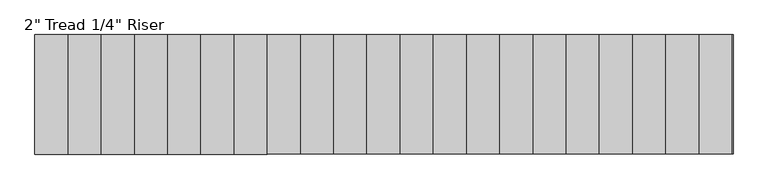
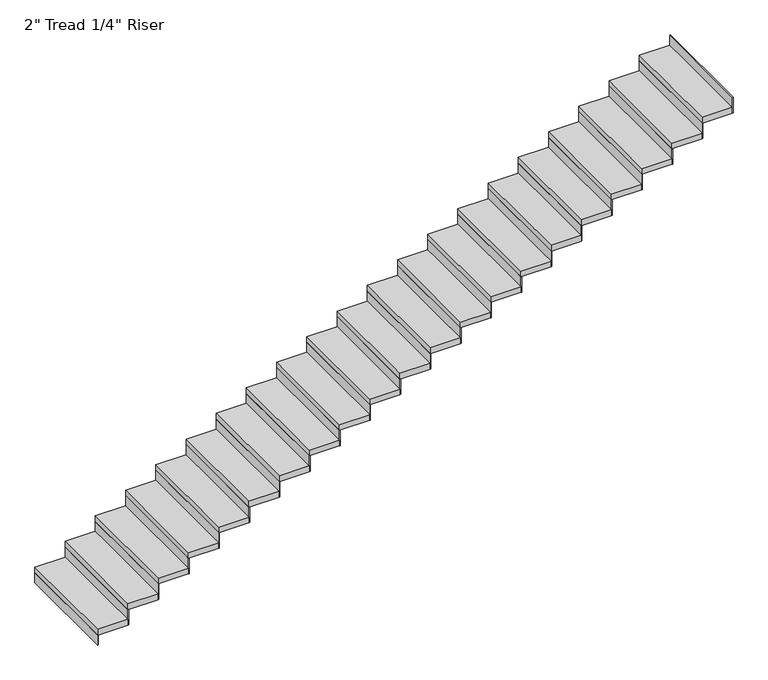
"""IFC4 building model written with IfcOpenShell, lengths in millimetres: stair flight geometry."""

from ifc_helpers import new_model, si_unit, frame, origin, origin_with_axes, place, context, project, spatial, polyline, outline, extrude, source, transform, mapped, element, save


def stair_flight_7c217fa4(model_context):
    return source(origin(), model_context, "Body", "SweptSolid", [
        extrude(outline(polyline([(60465.3810647, 32313.9530185), (60459.0310647, 32313.9530185), (60459.0310647, 33228.3530185), (60465.3810647, 33228.3530185), (60465.3810647, 32313.9530185)])), origin_with_axes(), (0.0, 0.0, 1.0), 87.7454545),
        extrude(outline(polyline([(60713.0310647, 33228.3530185), (60713.0310647, 32313.9530185), (60459.0310647, 32313.9530185), (60459.0310647, 33228.3530185), (60713.0310647, 33228.3530185)])), frame((0.0, 0.0, 87.7454545), z_axis=(0.0, 0.0, 1.0), x_axis=(1.0, 0.0, 0.0)), (0.0, 0.0, 1.0), 50.8),
        extrude(outline(polyline([(60719.3810647, 32313.9530185), (60713.0310647, 32313.9530185), (60713.0310647, 33228.3530185), (60719.3810647, 33228.3530185), (60719.3810647, 32313.9530185)])), frame((0.0, 0.0, 87.7454545), z_axis=(0.0, 0.0, 1.0), x_axis=(1.0, 0.0, 0.0)), (0.0, 0.0, 1.0), 138.5454545),
        extrude(outline(polyline([(60967.0310647, 33228.3530185), (60967.0310647, 32313.9530185), (60713.0310647, 32313.9530185), (60713.0310647, 33228.3530185), (60967.0310647, 33228.3530185)])), frame((0.0, 0.0, 226.2909091), z_axis=(0.0, 0.0, 1.0), x_axis=(1.0, 0.0, 0.0)), (0.0, 0.0, 1.0), 50.8),
        extrude(outline(polyline([(60973.3810647, 32313.9530185), (60967.0310647, 32313.9530185), (60967.0310647, 33228.3530185), (60973.3810647, 33228.3530185), (60973.3810647, 32313.9530185)])), frame((0.0, 0.0, 226.2909091), z_axis=(0.0, 0.0, 1.0), x_axis=(1.0, 0.0, 0.0)), (0.0, 0.0, 1.0), 138.5454545),
        extrude(outline(polyline([(61221.0310647, 33228.3530185), (61221.0310647, 32313.9530185), (60967.0310647, 32313.9530185), (60967.0310647, 33228.3530185), (61221.0310647, 33228.3530185)])), frame((0.0, 0.0, 364.8363636), z_axis=(0.0, 0.0, 1.0), x_axis=(1.0, 0.0, 0.0)), (0.0, 0.0, 1.0), 50.8),
        extrude(outline(polyline([(61227.3810647, 32313.9530185), (61221.0310647, 32313.9530185), (61221.0310647, 33228.3530185), (61227.3810647, 33228.3530185), (61227.3810647, 32313.9530185)])), frame((0.0, 0.0, 364.8363636), z_axis=(0.0, 0.0, 1.0), x_axis=(1.0, 0.0, 0.0)), (0.0, 0.0, 1.0), 138.5454545),
        extrude(outline(polyline([(61475.0310647, 33228.3530185), (61475.0310647, 32313.9530185), (61221.0310647, 32313.9530185), (61221.0310647, 33228.3530185), (61475.0310647, 33228.3530185)])), frame((0.0, 0.0, 503.3818182), z_axis=(0.0, 0.0, 1.0), x_axis=(1.0, 0.0, 0.0)), (0.0, 0.0, 1.0), 50.8),
        extrude(outline(polyline([(61481.3810647, 32313.9530185), (61475.0310647, 32313.9530185), (61475.0310647, 33228.3530185), (61481.3810647, 33228.3530185), (61481.3810647, 32313.9530185)])), frame((0.0, 0.0, 503.3818182), z_axis=(0.0, 0.0, 1.0), x_axis=(1.0, 0.0, 0.0)), (0.0, 0.0, 1.0), 138.5454545),
        extrude(outline(polyline([(61729.0310647, 33228.3530185), (61729.0310647, 32313.9530185), (61475.0310647, 32313.9530185), (61475.0310647, 33228.3530185), (61729.0310647, 33228.3530185)])), frame((0.0, 0.0, 641.9272727), z_axis=(0.0, 0.0, 1.0), x_axis=(1.0, 0.0, 0.0)), (0.0, 0.0, 1.0), 50.8),
        extrude(outline(polyline([(61735.3810647, 32313.9530185), (61729.0310647, 32313.9530185), (61729.0310647, 33228.3530185), (61735.3810647, 33228.3530185), (61735.3810647, 32313.9530185)])), frame((0.0, 0.0, 641.9272727), z_axis=(0.0, 0.0, 1.0), x_axis=(1.0, 0.0, 0.0)), (0.0, 0.0, 1.0), 138.5454545),
        extrude(outline(polyline([(61983.0310647, 33228.3530185), (61983.0310647, 32313.9530185), (61729.0310647, 32313.9530185), (61729.0310647, 33228.3530185), (61983.0310647, 33228.3530185)])), frame((0.0, 0.0, 780.4727273), z_axis=(0.0, 0.0, 1.0), x_axis=(1.0, 0.0, 0.0)), (0.0, 0.0, 1.0), 50.8),
        extrude(outline(polyline([(61989.3810647, 32313.9530185), (61983.0310647, 32313.9530185), (61983.0310647, 33228.3530185), (61989.3810647, 33228.3530185), (61989.3810647, 32313.9530185)])), frame((0.0, 0.0, 780.4727273), z_axis=(0.0, 0.0, 1.0), x_axis=(1.0, 0.0, 0.0)), (0.0, 0.0, 1.0), 138.5454545),
        extrude(outline(polyline([(62237.0310647, 33228.3530185), (62237.0310647, 32313.9530185), (61983.0310647, 32313.9530185), (61983.0310647, 33228.3530185), (62237.0310647, 33228.3530185)])), frame((0.0, 0.0, 919.0181818), z_axis=(0.0, 0.0, 1.0), x_axis=(1.0, 0.0, 0.0)), (0.0, 0.0, 1.0), 50.8),
        extrude(outline(polyline([(62243.3810647, 32313.9530185), (62237.0310647, 32313.9530185), (62237.0310647, 33228.3530185), (62243.3810647, 33228.3530185), (62243.3810647, 32313.9530185)])), frame((0.0, 0.0, 919.0181818), z_axis=(0.0, 0.0, 1.0), x_axis=(1.0, 0.0, 0.0)), (0.0, 0.0, 1.0), 138.5454545),
        extrude(outline(polyline([(62491.0310647, 33228.3530185), (62491.0310647, 32313.9530185), (62237.0310647, 32313.9530185), (62237.0310647, 33228.3530185), (62491.0310647, 33228.3530185)])), frame((0.0, 0.0, 1057.5636364), z_axis=(0.0, 0.0, 1.0), x_axis=(1.0, 0.0, 0.0)), (0.0, 0.0, 1.0), 50.8),
        extrude(outline(polyline([(62497.3810647, 32313.9530185), (62491.0310647, 32313.9530185), (62491.0310647, 33228.3530185), (62497.3810647, 33228.3530185), (62497.3810647, 32313.9530185)])), frame((0.0, 0.0, 1057.5636364), z_axis=(0.0, 0.0, 1.0), x_axis=(1.0, 0.0, 0.0)), (0.0, 0.0, 1.0), 138.5454545),
        extrude(outline(polyline([(62745.0310647, 33228.3530185), (62745.0310647, 32313.9530185), (62491.0310647, 32313.9530185), (62491.0310647, 33228.3530185), (62745.0310647, 33228.3530185)])), frame((0.0, 0.0, 1196.1090909), z_axis=(0.0, 0.0, 1.0), x_axis=(1.0, 0.0, 0.0)), (0.0, 0.0, 1.0), 50.8),
        extrude(outline(polyline([(62751.3810647, 32313.9530185), (62745.0310647, 32313.9530185), (62745.0310647, 33228.3530185), (62751.3810647, 33228.3530185), (62751.3810647, 32313.9530185)])), frame((0.0, 0.0, 1196.1090909), z_axis=(0.0, 0.0, 1.0), x_axis=(1.0, 0.0, 0.0)), (0.0, 0.0, 1.0), 138.5454545),
        extrude(outline(polyline([(62999.0310647, 33228.3530185), (62999.0310647, 32313.9530185), (62745.0310647, 32313.9530185), (62745.0310647, 33228.3530185), (62999.0310647, 33228.3530185)])), frame((0.0, 0.0, 1334.6545455), z_axis=(0.0, 0.0, 1.0), x_axis=(1.0, 0.0, 0.0)), (0.0, 0.0, 1.0), 50.8),
        extrude(outline(polyline([(63005.3810647, 32313.9530185), (62999.0310647, 32313.9530185), (62999.0310647, 33228.3530185), (63005.3810647, 33228.3530185), (63005.3810647, 32313.9530185)])), frame((0.0, 0.0, 1334.6545455), z_axis=(0.0, 0.0, 1.0), x_axis=(1.0, 0.0, 0.0)), (0.0, 0.0, 1.0), 138.5454545),
        extrude(outline(polyline([(63253.0310647, 33228.3530185), (63253.0310647, 32313.9530185), (62999.0310647, 32313.9530185), (62999.0310647, 33228.3530185), (63253.0310647, 33228.3530185)])), frame((0.0, 0.0, 1473.2), z_axis=(0.0, 0.0, 1.0), x_axis=(1.0, 0.0, 0.0)), (0.0, 0.0, 1.0), 50.8),
        extrude(outline(polyline([(63259.3810647, 32313.9530185), (63253.0310647, 32313.9530185), (63253.0310647, 33228.3530185), (63259.3810647, 33228.3530185), (63259.3810647, 32313.9530185)])), frame((0.0, 0.0, 1473.2), z_axis=(0.0, 0.0, 1.0), x_axis=(1.0, 0.0, 0.0)), (0.0, 0.0, 1.0), 138.5454545),
        extrude(outline(polyline([(63507.0310647, 33228.3530185), (63507.0310647, 32313.9530185), (63253.0310647, 32313.9530185), (63253.0310647, 33228.3530185), (63507.0310647, 33228.3530185)])), frame((0.0, 0.0, 1611.7454545), z_axis=(0.0, 0.0, 1.0), x_axis=(1.0, 0.0, 0.0)), (0.0, 0.0, 1.0), 50.8),
        extrude(outline(polyline([(63513.3810647, 32313.9530185), (63507.0310647, 32313.9530185), (63507.0310647, 33228.3530185), (63513.3810647, 33228.3530185), (63513.3810647, 32313.9530185)])), frame((0.0, 0.0, 1611.7454545), z_axis=(0.0, 0.0, 1.0), x_axis=(1.0, 0.0, 0.0)), (0.0, 0.0, 1.0), 138.5454545),
        extrude(outline(polyline([(63761.0310647, 33228.3530185), (63761.0310647, 32313.9530185), (63507.0310647, 32313.9530185), (63507.0310647, 33228.3530185), (63761.0310647, 33228.3530185)])), frame((0.0, 0.0, 1750.2909091), z_axis=(0.0, 0.0, 1.0), x_axis=(1.0, 0.0, 0.0)), (0.0, 0.0, 1.0), 50.8),
        extrude(outline(polyline([(63767.3810647, 32313.9530185), (63761.0310647, 32313.9530185), (63761.0310647, 33228.3530185), (63767.3810647, 33228.3530185), (63767.3810647, 32313.9530185)])), frame((0.0, 0.0, 1750.2909091), z_axis=(0.0, 0.0, 1.0), x_axis=(1.0, 0.0, 0.0)), (0.0, 0.0, 1.0), 138.5454545),
        extrude(outline(polyline([(64015.0310647, 33228.3530185), (64015.0310647, 32313.9530185), (63761.0310647, 32313.9530185), (63761.0310647, 33228.3530185), (64015.0310647, 33228.3530185)])), frame((0.0, 0.0, 1888.8363636), z_axis=(0.0, 0.0, 1.0), x_axis=(1.0, 0.0, 0.0)), (0.0, 0.0, 1.0), 50.8),
        extrude(outline(polyline([(64021.3810647, 32313.9530185), (64015.0310647, 32313.9530185), (64015.0310647, 33228.3530185), (64021.3810647, 33228.3530185), (64021.3810647, 32313.9530185)])), frame((0.0, 0.0, 1888.8363636), z_axis=(0.0, 0.0, 1.0), x_axis=(1.0, 0.0, 0.0)), (0.0, 0.0, 1.0), 138.5454545),
        extrude(outline(polyline([(64269.0310647, 33228.3530185), (64269.0310647, 32313.9530185), (64015.0310647, 32313.9530185), (64015.0310647, 33228.3530185), (64269.0310647, 33228.3530185)])), frame((0.0, 0.0, 2027.3818182), z_axis=(0.0, 0.0, 1.0), x_axis=(1.0, 0.0, 0.0)), (0.0, 0.0, 1.0), 50.8),
        extrude(outline(polyline([(64275.3810647, 32313.9530185), (64269.0310647, 32313.9530185), (64269.0310647, 33228.3530185), (64275.3810647, 33228.3530185), (64275.3810647, 32313.9530185)])), frame((0.0, 0.0, 2027.3818182), z_axis=(0.0, 0.0, 1.0), x_axis=(1.0, 0.0, 0.0)), (0.0, 0.0, 1.0), 138.5454545),
        extrude(outline(polyline([(64523.0310647, 33228.3530185), (64523.0310647, 32313.9530185), (64269.0310647, 32313.9530185), (64269.0310647, 33228.3530185), (64523.0310647, 33228.3530185)])), frame((0.0, 0.0, 2165.9272727), z_axis=(0.0, 0.0, 1.0), x_axis=(1.0, 0.0, 0.0)), (0.0, 0.0, 1.0), 50.8),
        extrude(outline(polyline([(64529.3810647, 32313.9530185), (64523.0310647, 32313.9530185), (64523.0310647, 33228.3530185), (64529.3810647, 33228.3530185), (64529.3810647, 32313.9530185)])), frame((0.0, 0.0, 2165.9272727), z_axis=(0.0, 0.0, 1.0), x_axis=(1.0, 0.0, 0.0)), (0.0, 0.0, 1.0), 138.5454545),
        extrude(outline(polyline([(64777.0310647, 33228.3530185), (64777.0310647, 32313.9530185), (64523.0310647, 32313.9530185), (64523.0310647, 33228.3530185), (64777.0310647, 33228.3530185)])), frame((0.0, 0.0, 2304.4727273), z_axis=(0.0, 0.0, 1.0), x_axis=(1.0, 0.0, 0.0)), (0.0, 0.0, 1.0), 50.8),
        extrude(outline(polyline([(64783.3810647, 32313.9530185), (64777.0310647, 32313.9530185), (64777.0310647, 33228.3530185), (64783.3810647, 33228.3530185), (64783.3810647, 32313.9530185)])), frame((0.0, 0.0, 2304.4727273), z_axis=(0.0, 0.0, 1.0), x_axis=(1.0, 0.0, 0.0)), (0.0, 0.0, 1.0), 138.5454545),
        extrude(outline(polyline([(65031.0310647, 33228.3530185), (65031.0310647, 32313.9530185), (64777.0310647, 32313.9530185), (64777.0310647, 33228.3530185), (65031.0310647, 33228.3530185)])), frame((0.0, 0.0, 2443.0181818), z_axis=(0.0, 0.0, 1.0), x_axis=(1.0, 0.0, 0.0)), (0.0, 0.0, 1.0), 50.8),
        extrude(outline(polyline([(65037.3810647, 32313.9530185), (65031.0310647, 32313.9530185), (65031.0310647, 33228.3530185), (65037.3810647, 33228.3530185), (65037.3810647, 32313.9530185)])), frame((0.0, 0.0, 2443.0181818), z_axis=(0.0, 0.0, 1.0), x_axis=(1.0, 0.0, 0.0)), (0.0, 0.0, 1.0), 138.5454545),
        extrude(outline(polyline([(65285.0310647, 33228.3530185), (65285.0310647, 32313.9530185), (65031.0310647, 32313.9530185), (65031.0310647, 33228.3530185), (65285.0310647, 33228.3530185)])), frame((0.0, 0.0, 2581.5636364), z_axis=(0.0, 0.0, 1.0), x_axis=(1.0, 0.0, 0.0)), (0.0, 0.0, 1.0), 50.8),
        extrude(outline(polyline([(65291.3810647, 32313.9530185), (65285.0310647, 32313.9530185), (65285.0310647, 33228.3530185), (65291.3810647, 33228.3530185), (65291.3810647, 32313.9530185)])), frame((0.0, 0.0, 2581.5636364), z_axis=(0.0, 0.0, 1.0), x_axis=(1.0, 0.0, 0.0)), (0.0, 0.0, 1.0), 138.5454545),
        extrude(outline(polyline([(65539.0310647, 33228.3530185), (65539.0310647, 32313.9530185), (65285.0310647, 32313.9530185), (65285.0310647, 33228.3530185), (65539.0310647, 33228.3530185)])), frame((0.0, 0.0, 2720.1090909), z_axis=(0.0, 0.0, 1.0), x_axis=(1.0, 0.0, 0.0)), (0.0, 0.0, 1.0), 50.8),
        extrude(outline(polyline([(65545.3810647, 32313.9530185), (65539.0310647, 32313.9530185), (65539.0310647, 33228.3530185), (65545.3810647, 33228.3530185), (65545.3810647, 32313.9530185)])), frame((0.0, 0.0, 2720.1090909), z_axis=(0.0, 0.0, 1.0), x_axis=(1.0, 0.0, 0.0)), (0.0, 0.0, 1.0), 138.5454545),
        extrude(outline(polyline([(65799.3810647, 32313.9530185), (65793.0310647, 32313.9530185), (65793.0310647, 33228.3530185), (65799.3810647, 33228.3530185), (65799.3810647, 32313.9530185)])), frame((0.0, 0.0, 2858.6545455), z_axis=(0.0, 0.0, 1.0), x_axis=(1.0, 0.0, 0.0)), (0.0, 0.0, 1.0), 138.5454545),
        extrude(outline(polyline([(65793.0310647, 33228.3530185), (65793.0310647, 32313.9530185), (65539.0310647, 32313.9530185), (65539.0310647, 33228.3530185), (65793.0310647, 33228.3530185)])), frame((0.0, 0.0, 2858.6545455), z_axis=(0.0, 0.0, 1.0), x_axis=(1.0, 0.0, 0.0)), (0.0, 0.0, 1.0), 50.8),
    ])


if __name__ == "__main__":
    model = new_model("IFC4")
    model_context = context("Model", 3, world=origin())
    ifc_project = project(units=[si_unit("LENGTHUNIT", "METRE", prefix="MILLI")], contexts=[model_context])
    site = spatial("IfcSite", under=ifc_project)
    building = spatial("IfcBuilding", under=site)
    placement = place(None, origin())
    stair_flight_shape = stair_flight_7c217fa4(model_context)
    element("IfcStairFlight", 1, ObjectType="2\" Tread 1/4\" Riser", at=placement, inside=building, context=model_context, shape_type="MappedRepresentation", body=[
        mapped(stair_flight_shape, transform((0.0, 0.0, 0.0), x_axis=(1.0, 0.0, 0.0), y_axis=(0.0, 1.0, 0.0), z_axis=(0.0, 0.0, 1.0))),
    ])
    save(model, "model.ifc")
